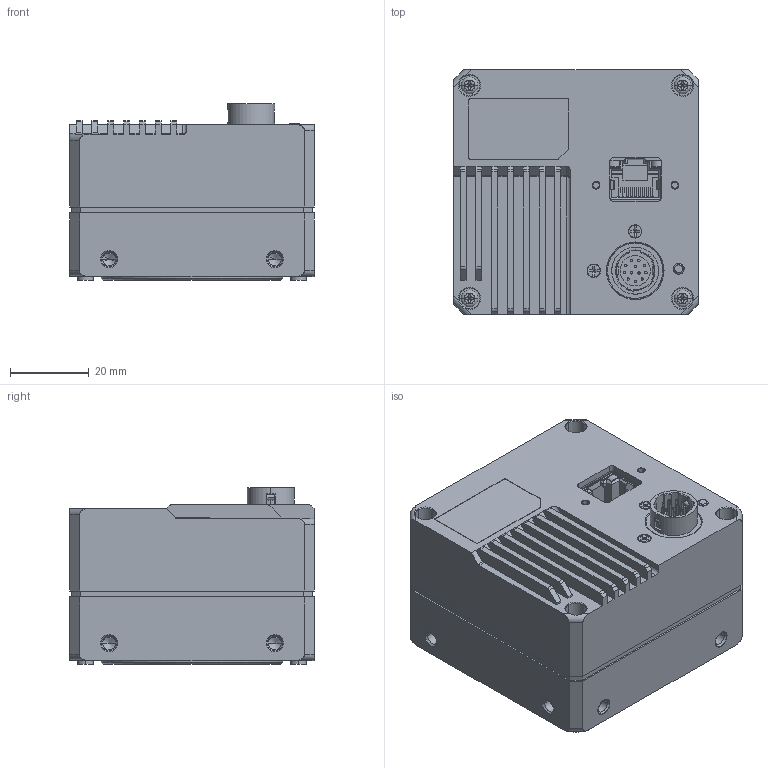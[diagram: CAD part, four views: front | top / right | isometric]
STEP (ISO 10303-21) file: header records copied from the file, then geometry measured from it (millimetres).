
FILE_DESCRIPTION((''),'2;1');
FILE_NAME('2K00_ASM','2022-05-07T14:10:16',('mafangning'),(''),'CREO PARAMETRIC BY PTC INC, 2020044','CREO PARAMETRIC BY PTC INC, 2020044','');
FILE_SCHEMA(('CONFIG_CONTROL_DESIGN'));
Products named in the file (16): DE-14-012664; DE-18-000014_; DE-17-000879; DE-14-000482; MV-22087REV10032410-20210324105_ASM; DE-14-012667; DE-19-000075; DE-11-015348; D-01-35-26-0096; HR10A-10R-12PB_; _0001_ASM; SC-PM2_5X12L4; SC-KM2X4B; 1001477; MV-20203REV10-202106161016_ASM; 2K00_ASM
Assembly tree (19 placements, depth 3):
  2K00_ASM
    DE-14-012664
    DE-18-000014_
    DE-17-000879
    DE-14-000482
    MV-22087REV10032410-20210324105_ASM
    DE-14-012667
    DE-19-000075
    DE-11-015348
    D-01-35-26-0096
    _0001_ASM
      HR10A-10R-12PB_
    SC-PM2_5X12L4  x4
    SC-KM2X4B  x2
    MV-20203REV10-202106161016_ASM
      1001477
Bounding box: 62 x 62 x 44.8 mm (x, y, z)
Volume: 109930 mm3; surface area: 50222.7 mm2
Topology: 17 solids, 72 shells, 2728 faces, 7317 edges, 4707 vertices
Faces by surface type: plane 1623, cylinder 850, cone 124, torus 60, bspline 59, sphere 12
Entity records: 81601 total; most frequent: CARTESIAN_POINT 17278, DIRECTION 13328, ORIENTED_EDGE 13288, EDGE_CURVE 6756, VECTOR 4612, LINE 4612, VERTEX_POINT 4373, AXIS2_PLACEMENT_3D 4358
